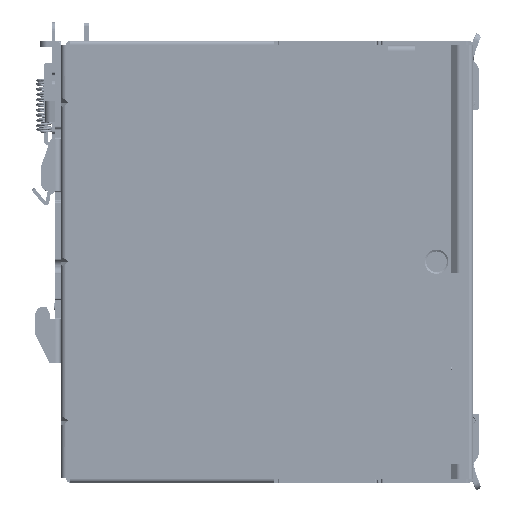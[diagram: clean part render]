
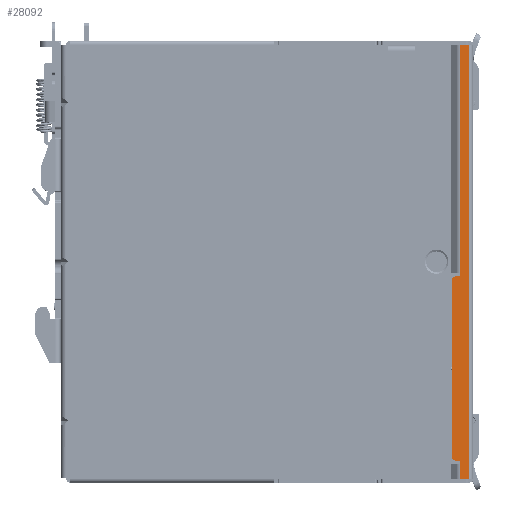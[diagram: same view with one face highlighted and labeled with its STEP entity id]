
A CAD part, front view. The second image highlights one B-rep face of the part: STEP entity #28092.
In plain terms, the highlighted planar face has unit normal (0, -1, 0).
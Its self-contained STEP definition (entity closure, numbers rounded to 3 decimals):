
#5402=DIRECTION('',(0.,0.,-1.));
#5403=VECTOR('',#5402,63.7);
#5404=CARTESIAN_POINT('',(109.937,0.,-0.4));
#5405=LINE('',#5404,#5403);
#5438=CARTESIAN_POINT('',(108.85,0.,-115.6));
#5439=DIRECTION('',(0.,1.,0.));
#5440=DIRECTION('',(0.,0.,-1.));
#5441=AXIS2_PLACEMENT_3D('',#5438,#5439,#5440);
#5446=DIRECTION('',(0.,0.,1.));
#5447=VECTOR('',#5446,49.5);
#5448=CARTESIAN_POINT('',(107.85,0.,-115.6));
#5449=LINE('',#5448,#5447);
#5453=CARTESIAN_POINT('',(108.85,0.,-66.1));
#5454=DIRECTION('',(0.,1.,0.));
#5455=DIRECTION('',(-1.,0.,0.));
#5456=AXIS2_PLACEMENT_3D('',#5453,#5454,#5455);
#5461=DIRECTION('',(1.,0.,0.));
#5462=VECTOR('',#5461,1.1);
#5463=CARTESIAN_POINT('',(108.85,0.,-65.1));
#5464=LINE('',#5463,#5462);
#5468=CARTESIAN_POINT('',(109.95,0.,-65.1));
#5469=CARTESIAN_POINT('',(109.95,0.,-64.767));
#5470=CARTESIAN_POINT('',(109.945,0.,
-64.433));
#5471=CARTESIAN_POINT('',(109.945,0.,-64.1));
#5476=DIRECTION('',(1.,0.,0.));
#5477=VECTOR('',#5476,2.563);
#5478=CARTESIAN_POINT('',(109.937,0.,-0.4));
#5479=LINE('',#5478,#5477);
#5483=DIRECTION('',(-1.,0.,0.));
#5484=VECTOR('',#5483,2.563);
#5485=CARTESIAN_POINT('',(112.5,0.,-121.6));
#5486=LINE('',#5485,#5484);
#5490=CARTESIAN_POINT('',(109.945,0.,-117.6));
#5491=CARTESIAN_POINT('',(109.945,0.,
-117.267));
#5492=CARTESIAN_POINT('',(109.95,0.,-116.933));
#5493=CARTESIAN_POINT('',(109.95,0.,-116.6));
#5498=DIRECTION('',(-1.,0.,0.));
#5499=VECTOR('',#5498,1.1);
#5500=CARTESIAN_POINT('',(109.95,0.,-116.6));
#5501=LINE('',#5500,#5499);
#5557=DIRECTION('',(-0.002,0.,-1.));
#5558=VECTOR('',#5557,4.);
#5559=CARTESIAN_POINT('',(109.945,0.,-117.6));
#5560=LINE('',#5559,#5558);
#20721=DIRECTION('',(0.,0.,1.));
#20722=VECTOR('',#20721,121.2);
#20723=CARTESIAN_POINT('',(112.5,0.,-121.6));
#20724=LINE('',#20723,#20722);
#25117=CARTESIAN_POINT('',(112.5,0.,-0.4));
#25118=VERTEX_POINT('',#25117);
#25119=CARTESIAN_POINT('',(112.5,0.,-121.6));
#25120=VERTEX_POINT('',#25119);
#25121=CARTESIAN_POINT('',(108.85,0.,-116.6));
#25122=CARTESIAN_POINT('',(107.85,0.,-115.6));
#25123=VERTEX_POINT('',#25121);
#25124=VERTEX_POINT('',#25122);
#25125=CARTESIAN_POINT('',(107.85,0.,-66.1));
#25126=VERTEX_POINT('',#25125);
#25127=CARTESIAN_POINT('',(108.85,0.,-65.1));
#25128=VERTEX_POINT('',#25127);
#25129=CARTESIAN_POINT('',(109.95,0.,-65.1));
#25130=VERTEX_POINT('',#25129);
#25131=VERTEX_POINT('',#5471);
#25132=CARTESIAN_POINT('',(109.937,0.,-0.4));
#25133=VERTEX_POINT('',#25132);
#25134=CARTESIAN_POINT('',(109.937,0.,-121.6));
#25135=VERTEX_POINT('',#25134);
#25136=CARTESIAN_POINT('',(109.945,0.,-117.6));
#25137=VERTEX_POINT('',#25136);
#25138=VERTEX_POINT('',#5493);
#28063=CARTESIAN_POINT('',(113.7,0.,-0.4));
#28064=DIRECTION('',(0.,-1.,0.));
#28065=DIRECTION('',(0.,0.,1.));
#28066=AXIS2_PLACEMENT_3D('',#28063,#28064,#28065);
#28067=PLANE('',#28066);
#28069=ORIENTED_EDGE('',*,*,#28068,.T.);
#28071=ORIENTED_EDGE('',*,*,#28070,.T.);
#28073=ORIENTED_EDGE('',*,*,#28072,.T.);
#28075=ORIENTED_EDGE('',*,*,#28074,.T.);
#28077=ORIENTED_EDGE('',*,*,#28076,.T.);
#28078=ORIENTED_EDGE('',*,*,#28028,.F.);
#28079=ORIENTED_EDGE('',*,*,#28053,.T.);
#28081=ORIENTED_EDGE('',*,*,#28080,.F.);
#28083=ORIENTED_EDGE('',*,*,#28082,.T.);
#28085=ORIENTED_EDGE('',*,*,#28084,.F.);
#28087=ORIENTED_EDGE('',*,*,#28086,.T.);
#28089=ORIENTED_EDGE('',*,*,#28088,.T.);
#28090=EDGE_LOOP('',(#28069,#28071,#28073,#28075,#28077,#28078,#28079,#28081,
#28083,#28085,#28087,#28089));
#28091=FACE_OUTER_BOUND('',#28090,.F.);
#28092=ADVANCED_FACE('',(#28091),#28067,.T.);
#5442=CIRCLE('',#5441,1.);
#5457=CIRCLE('',#5456,1.);
#5472=B_SPLINE_CURVE_WITH_KNOTS('',3,(#5468,#5469,#5470,#5471),.UNSPECIFIED.,
.F.,.F.,(4,4),(0.,1.),.UNSPECIFIED.);
#5494=B_SPLINE_CURVE_WITH_KNOTS('',3,(#5490,#5491,#5492,#5493),.UNSPECIFIED.,
.F.,.F.,(4,4),(0.,1.),.UNSPECIFIED.);
#28028=EDGE_CURVE('',#25133,#25131,#5405,.T.);
#28053=EDGE_CURVE('',#25133,#25118,#5479,.T.);
#28068=EDGE_CURVE('',#25123,#25124,#5442,.T.);
#28070=EDGE_CURVE('',#25124,#25126,#5449,.T.);
#28072=EDGE_CURVE('',#25126,#25128,#5457,.T.);
#28074=EDGE_CURVE('',#25128,#25130,#5464,.T.);
#28076=EDGE_CURVE('',#25130,#25131,#5472,.T.);
#28080=EDGE_CURVE('',#25120,#25118,#20724,.T.);
#28082=EDGE_CURVE('',#25120,#25135,#5486,.T.);
#28084=EDGE_CURVE('',#25137,#25135,#5560,.T.);
#28086=EDGE_CURVE('',#25137,#25138,#5494,.T.);
#28088=EDGE_CURVE('',#25138,#25123,#5501,.T.);
